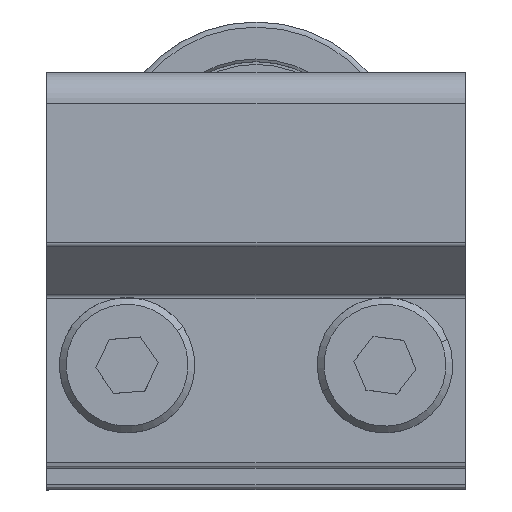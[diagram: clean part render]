
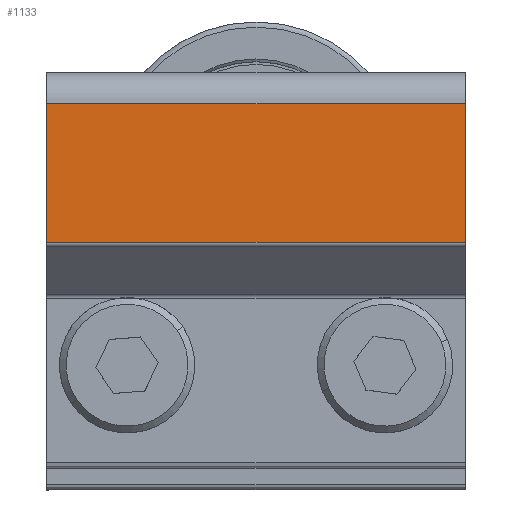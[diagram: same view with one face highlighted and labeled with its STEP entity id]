
A CAD part, top view. The second image highlights one B-rep face of the part: STEP entity #1133.
In plain terms, the highlighted planar face has unit normal (0, 0, 1) as drawn and (1, 0, 0) by its records, which use the part's own axes.
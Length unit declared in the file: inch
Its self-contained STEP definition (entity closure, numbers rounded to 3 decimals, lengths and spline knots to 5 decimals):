
#636=DIRECTION('',(0.,-1.,0.));
#637=VECTOR('',#636,0.40379);
#638=CARTESIAN_POINT('',(0.375,0.763,-0.608));
#639=LINE('',#638,#637);
#717=DIRECTION('',(0.,-1.,0.));
#718=VECTOR('',#717,0.40379);
#719=CARTESIAN_POINT('',(0.375,0.763,0.608));
#720=LINE('',#719,#718);
#786=DIRECTION('',(0.,0.,1.));
#787=VECTOR('',#786,1.216);
#788=CARTESIAN_POINT('',(0.375,0.35921,-0.608));
#789=LINE('',#788,#787);
#930=DIRECTION('',(0.,0.,-1.));
#931=VECTOR('',#930,1.216);
#932=CARTESIAN_POINT('',(0.375,0.763,0.608));
#933=LINE('',#932,#931);
#983=CARTESIAN_POINT('',(0.375,0.763,-0.608));
#985=VERTEX_POINT('',#983);
#996=CARTESIAN_POINT('',(0.375,0.763,0.608));
#998=VERTEX_POINT('',#996);
#1020=CARTESIAN_POINT('',(0.375,0.35921,-0.608));
#1022=VERTEX_POINT('',#1020);
#1050=CARTESIAN_POINT('',(0.375,0.35921,0.608));
#1051=VERTEX_POINT('',#1050);
#1119=CARTESIAN_POINT('',(0.375,0.763,0.608));
#1120=DIRECTION('',(-1.,0.,0.));
#1121=DIRECTION('',(0.,-1.,0.));
#1122=AXIS2_PLACEMENT_3D('',#1119,#1120,#1121);
#1123=PLANE('',#1122);
#1125=ORIENTED_EDGE('',*,*,#1124,.F.);
#1127=ORIENTED_EDGE('',*,*,#1126,.T.);
#1128=ORIENTED_EDGE('',*,*,#1075,.T.);
#1130=ORIENTED_EDGE('',*,*,#1129,.T.);
#1131=EDGE_LOOP('',(#1125,#1127,#1128,#1130));
#1132=FACE_OUTER_BOUND('',#1131,.F.);
#1075=EDGE_CURVE('',#985,#1022,#639,.T.);
#1124=EDGE_CURVE('',#998,#1051,#720,.T.);
#1126=EDGE_CURVE('',#998,#985,#933,.T.);
#1129=EDGE_CURVE('',#1022,#1051,#789,.T.);
#1133=ADVANCED_FACE('',(#1132),#1123,.F.);
